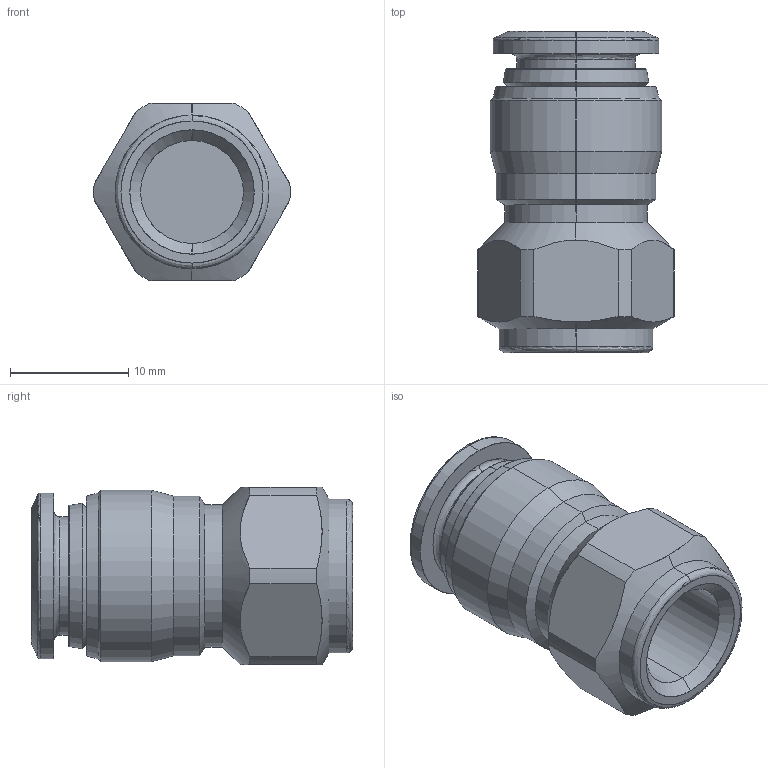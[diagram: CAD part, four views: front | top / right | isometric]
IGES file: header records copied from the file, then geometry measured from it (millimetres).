
Start section: SolidWorks IGES file using analytic representation for surfaces
Global section: file name: K:\Disegni Esecutivi\SERIE 40000\ASSIEMI\40030\IGES\40030V0004A.IGS; native system: SolidWorks 2016; preprocessor: SolidWorks 2016; author: cad06; date: 201030.170453; units: millimetre
Bounding box: 16.59 x 27.15 x 15 mm (x, y, z)
Surface area: 2336.6 mm2 (no closed solid volume)
Topology: 0 solids, 0 shells, 63 faces, 740 edges, 740 vertices
Faces by surface type: revolution 42, bspline 21
